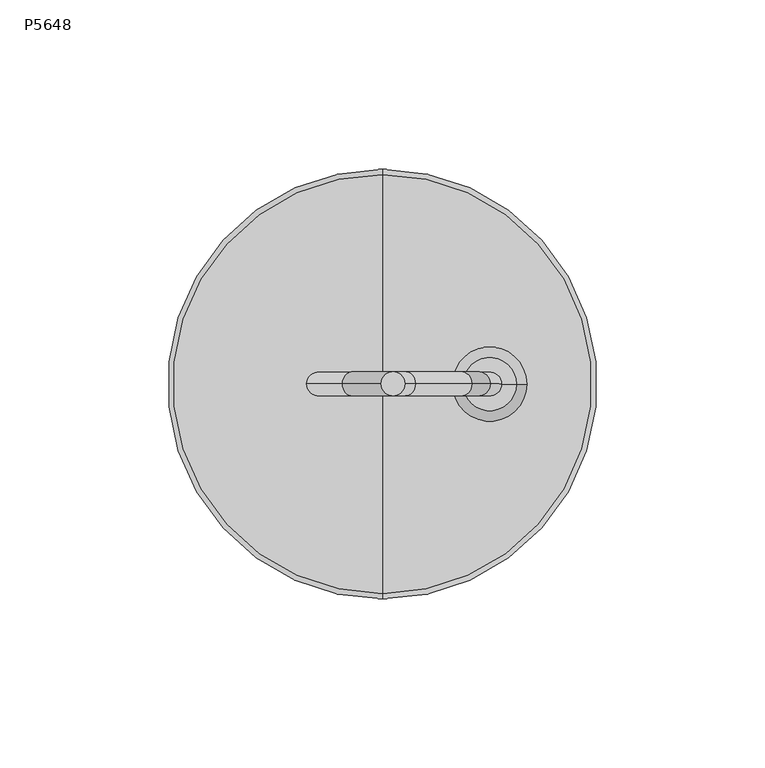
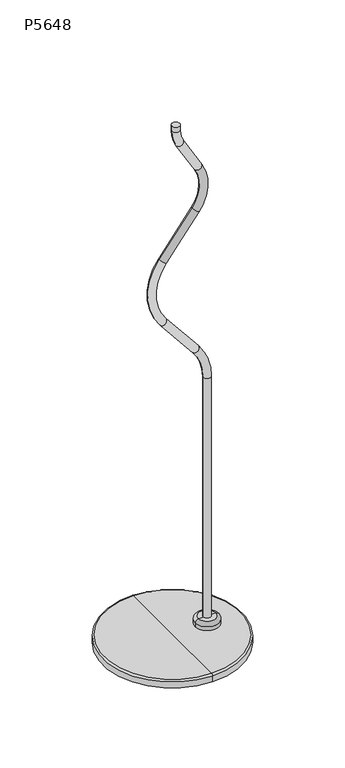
"""IFC4 building model written with IfcOpenShell, lengths in millimetres: light fixture geometry, Impact_Arch_Ltg-waf.r.3 : P5648."""

import ifcopenshell
import ifcopenshell.guid

model = None  # the IFC model being written
_history = None  # IfcOwnerHistory: only IFC2X3 demands one
_inside = {}  # id of a spatial element -> (the spatial element, [elements in it])
_under = {}  # id of a project, library or spatial element -> (it, [spatial elements below it])
_declared = {}  # id of a project -> (the project, [libraries it declares])
_typed = {}  # id of a type object -> (the type object, [elements of that type])
_made_of = {}  # id of a material, layer set ... -> (it, [elements and type objects made of it])


def new_model(schema):
    """Start an empty IFC model of exactly this schema.

    Asked for "IFC4X3", IfcOpenShell would pick the latest addendum, in which some entities
    have other attributes; the version numbers below select the first issue.
    IFC2X3 requires an IfcOwnerHistory on every rooted entity: one is made here for all.
    """
    global model, _history
    if schema == "IFC4X3":
        model = ifcopenshell.file(schema_version=(4, 3, 0, 0))
    else:
        model = ifcopenshell.file(schema=schema)
    _inside.clear()
    _under.clear()
    _declared.clear()
    _typed.clear()
    _made_of.clear()
    _history = None
    if model.schema == "IFC2X3":
        org = make("IfcOrganization", Name="unknown")
        user = make(
            "IfcPersonAndOrganization",
            ThePerson=make("IfcPerson", FamilyName="unknown"),
            TheOrganization=org,
        )
        app = make(
            "IfcApplication",
            ApplicationDeveloper=org,
            Version="unknown",
            ApplicationFullName="unknown",
            ApplicationIdentifier="unknown",
        )
        _history = make(
            "IfcOwnerHistory",
            OwningUser=user,
            OwningApplication=app,
            ChangeAction="ADDED",
            CreationDate=0,
        )
    return model


def make(cls, **values):
    """One entity of the class cls with the attributes given. An attribute that is None is left unset."""
    return model.create_entity(
        cls, **{name: value for name, value in values.items() if value is not None}
    )


def rooted(cls, **values):
    """An entity with a GlobalId (a new one), such as an element, a storey or a relation."""
    return make(cls, GlobalId=ifcopenshell.guid.new(), OwnerHistory=_history, **values)


def si_unit(unit_type, name, prefix=None):
    """IfcSIUnit, for example si_unit("LENGTHUNIT", "METRE", prefix="MILLI")."""
    return make("IfcSIUnit", UnitType=unit_type, Prefix=prefix, Name=name)


def assignment(units):
    """IfcUnitAssignment: the units of a project."""
    return None if units is None else make("IfcUnitAssignment", Units=units)


def point(xyz):
    """IfcCartesianPoint."""
    return None if xyz is None else make("IfcCartesianPoint", Coordinates=xyz)


def direction(xyz):
    """IfcDirection."""
    return None if xyz is None else make("IfcDirection", DirectionRatios=xyz)


def frame(location, z_axis=None, x_axis=None):
    """IfcAxis2Placement3D, a coordinate frame: its origin and axes. An axis left out is left unset."""
    return make(
        "IfcAxis2Placement3D",
        Location=point(location),
        Axis=direction(z_axis),
        RefDirection=direction(x_axis),
    )


def origin():
    """The frame at (0, 0, 0) with its axes left unset."""
    return frame((0.0, 0.0, 0.0))


def place(relative_to, where):
    """IfcLocalPlacement: puts the frame where relative to a parent placement (None: the world)."""
    return make(
        "IfcLocalPlacement", PlacementRelTo=relative_to, RelativePlacement=where
    )


def context(
    kind, dimensions, precision=None, world=None, true_north=None, identifier=None
):
    """IfcGeometricRepresentationContext, for example the 3D "Model" context."""
    return make(
        "IfcGeometricRepresentationContext",
        ContextIdentifier=identifier,
        ContextType=kind,
        CoordinateSpaceDimension=dimensions,
        Precision=precision,
        WorldCoordinateSystem=world,
        TrueNorth=true_north,
    )


def project(units=None, contexts=None):
    """IfcProject with its units and contexts."""
    return rooted(
        "IfcProject",
        Name="project",
        RepresentationContexts=contexts,
        UnitsInContext=assignment(units),
    )


def spatial(cls, under=None, at=None, **own):
    """A site, building, storey or space (cls), placed at a placement, below another one or the project."""
    s = rooted(cls, ObjectPlacement=at, **own)
    if under is not None:
        _under.setdefault(under.id(), (under, []))[1].append(s)
    return s


def circle_curve(where, radius):
    """IfcCircle in the frame where."""
    return make("IfcCircle", Position=where, Radius=radius)


def ellipse_curve(where, semi_axis1, semi_axis2):
    """IfcEllipse in the frame where."""
    return make(
        "IfcEllipse", Position=where, SemiAxis1=semi_axis1, SemiAxis2=semi_axis2
    )


def trimmed(basis, trim1, trim2, sense, master):
    """IfcTrimmedCurve: the piece of a basis curve between two trims."""
    return make(
        "IfcTrimmedCurve",
        BasisCurve=basis,
        Trim1=trim1,
        Trim2=trim2,
        SenseAgreement=sense,
        MasterRepresentation=master,
    )


def shape(context_of_items, identifier, shape_type, items):
    """IfcShapeRepresentation: the items that make up one representation, for example the "Body"."""
    return make(
        "IfcShapeRepresentation",
        ContextOfItems=context_of_items,
        RepresentationIdentifier=identifier,
        RepresentationType=shape_type,
        Items=items,
    )


def source(mapping_origin, context_of_items, identifier, shape_type, items):
    """IfcRepresentationMap: a shape defined once, which mapped items show again and again."""
    return make(
        "IfcRepresentationMap",
        MappingOrigin=mapping_origin,
        MappedRepresentation=shape(context_of_items, identifier, shape_type, items),
    )


def transform(
    local_origin,
    x_axis=None,
    y_axis=None,
    z_axis=None,
    scale=None,
    scale2=None,
    scale3=None,
    uniform=True,
):
    """IfcCartesianTransformationOperator3D, or its non-uniform kind. x_axis, y_axis, z_axis: its Axis1, 2, 3."""
    if uniform:
        return make(
            "IfcCartesianTransformationOperator3D",
            Axis1=direction(x_axis),
            Axis2=direction(y_axis),
            LocalOrigin=point(local_origin),
            Scale=scale,
            Axis3=direction(z_axis),
        )
    return make(
        "IfcCartesianTransformationOperator3DnonUniform",
        Axis1=direction(x_axis),
        Axis2=direction(y_axis),
        LocalOrigin=point(local_origin),
        Scale=scale,
        Axis3=direction(z_axis),
        Scale2=scale2,
        Scale3=scale3,
    )


def mapped(mapping_source, mapping_target):
    """IfcMappedItem: shows the shape of a source again, moved by a transform."""
    return make(
        "IfcMappedItem", MappingSource=mapping_source, MappingTarget=mapping_target
    )


def made_of(thing, what):
    """Note that an element or type object is made of a material, layer set ...; save() writes the relation."""
    if what is not None:
        _made_of.setdefault(what.id(), (what, []))[1].append(thing)
    return thing


def element(
    cls,
    number,
    at=None,
    inside=None,
    cuts=None,
    type_object=None,
    material=None,
    context=None,
    identifier="Body",
    shape_type=None,
    held_by="IfcProductDefinitionShape",
    body=None,
    shapes=None,
    **own,
):
    """One element of the class cls, such as IfcWall. Its Tag is "e" and its number.

    at: its placement. inside: the storey or other place that contains it. cuts: it is an
    opening in that element (IfcRelVoidsElement). A single representation is given by context,
    identifier, shape_type and body (its items); several are given by shapes. held_by: the class
    of the entity that holds the representations. save() writes the other relations.
    """
    e = rooted(cls, Tag="e%d" % number, ObjectPlacement=at, **own)
    if body is not None:
        shapes = [shape(context, identifier, shape_type, body)]
    if shapes is not None:
        e.Representation = make(held_by, Representations=shapes)
    if inside is not None:
        _inside.setdefault(inside.id(), (inside, []))[1].append(e)
    if cuts is not None:
        rooted(
            "IfcRelVoidsElement", RelatingBuildingElement=cuts, RelatedOpeningElement=e
        )
    if type_object is not None:
        _typed.setdefault(type_object.id(), (type_object, []))[1].append(e)
    return made_of(e, material)


def aggregate(whole, parts):
    """IfcRelAggregates: a whole, such as a stair, and the parts it consists of."""
    return rooted("IfcRelAggregates", RelatingObject=whole, RelatedObjects=parts)


def save(model, path):
    """Write the relations noted so far, then the file.

    IfcRelAggregates (storeys below a building ...), IfcRelContainedInSpatialStructure (elements
    in a storey), IfcRelDefinesByType, IfcRelAssociatesMaterial and IfcRelDeclares: one each for
    every whole, place, type object, material and project.
    """
    for whole, parts in _under.values():
        aggregate(whole, parts)
    for where, things in _inside.values():
        rooted(
            "IfcRelContainedInSpatialStructure",
            RelatedElements=things,
            RelatingStructure=where,
        )
    for kind, things in _typed.values():
        rooted("IfcRelDefinesByType", RelatedObjects=things, RelatingType=kind)
    for what, things in _made_of.values():
        rooted("IfcRelAssociatesMaterial", RelatedObjects=things, RelatingMaterial=what)
    for by, libraries in _declared.values():
        rooted("IfcRelDeclares", RelatingContext=by, RelatedDefinitions=libraries)
    model.write(path)


def plane_surface(at):
    """IfcPlane: the flat surface through the origin of the frame at, square to its z axis."""
    return make("IfcPlane", Position=at)


def cylinder_surface(at, radius):
    """IfcCylindricalSurface: all points at the distance radius from the z axis of the frame at."""
    return make("IfcCylindricalSurface", Position=at, Radius=radius)


def revolved_surface(curve, axis_point, axis_direction):
    """IfcSurfaceOfRevolution: the curve turned about the line through axis_point along axis_direction."""
    return make(
        "IfcSurfaceOfRevolution",
        SweptCurve=make("IfcArbitraryOpenProfileDef", ProfileType="CURVE", Curve=curve),
        AxisPosition=make("IfcAxis1Placement", Location=point(axis_point), Axis=direction(axis_direction)),
    )


def advanced_brep(points, edges, surfaces, faces):
    """IfcAdvancedBrep: a solid bounded by faces that lie on surfaces and meet in shared edges.

    An edge is (start, end): straight between two places in points (the first is 0);
    or (start, end, curve); or (start, end, curve, False) where it runs against its curve.
    A face is (place in surfaces, loops), or (place, loops, False) where it looks against
    its surface's normal. A loop lists edges by number (the first is 1), with a minus sign
    where the edge is run from its end to its start. The first loop is the outer one.
    """
    corners = [point(p) for p in points]
    vertices = [make("IfcVertexPoint", VertexGeometry=c) for c in corners]
    made = []
    for start, end, *more in edges:
        made.append(
            make(
                "IfcEdgeCurve",
                EdgeStart=vertices[start],
                EdgeEnd=vertices[end],
                EdgeGeometry=more[0] if more else make("IfcPolyline", Points=[corners[start], corners[end]]),
                SameSense=more[1] if len(more) > 1 else True,
            )
        )
    hull = []
    for where, loops, *sense in faces:
        bounds = []
        for j, loop in enumerate(loops):
            ring = [make("IfcOrientedEdge", EdgeElement=made[abs(k) - 1], Orientation=k > 0) for k in loop]
            bounds.append(
                make(
                    "IfcFaceOuterBound" if j == 0 else "IfcFaceBound",
                    Bound=make("IfcEdgeLoop", EdgeList=ring),
                    Orientation=True,
                )
            )
        hull.append(make("IfcAdvancedFace", Bounds=bounds, FaceSurface=surfaces[where], SameSense=sense[0] if sense else True))
    return make("IfcAdvancedBrep", Outer=make("IfcClosedShell", CfsFaces=hull))


def p5648_7bcdc195(model_context):
    return source(origin(), model_context, "Body", "AdvancedBrep", [
        advanced_brep(
        [(0.0, 63.5264903, 0.0), (0.0, -63.5264903, 0.0), (0.0, -63.5264903, 5.7785), (0.0, 63.5264903, 5.7785), (0.0, 0.0, 0.0), (0.0, 61.9389903, 7.366), (0.0, -61.9389903, 7.366), (0.0, 0.0, 7.366)],
        [
            (0, 1, circle_curve(frame((0.0, 0.0, 0.0), z_axis=(0.0, 0.0, 1.0), x_axis=(0.0, -1.0, 0.0)), 63.5264903)),
            (1, 2),
            (2, 3, circle_curve(frame((0.0, 0.0, 5.7785), z_axis=(0.0, 0.0, -1.0), x_axis=(0.0, -1.0, 0.0)), 63.5264903)),
            (3, 0),
            (1, 0, circle_curve(frame((0.0, 0.0, 0.0), z_axis=(0.0, 0.0, 1.0), x_axis=(0.0, -1.0, 0.0)), 63.5264903)),
            (3, 2, circle_curve(frame((0.0, 0.0, 5.7785), z_axis=(0.0, 0.0, -1.0), x_axis=(0.0, -1.0, 0.0)), 63.5264903)),
            (4, 1),
            (0, 4),
            (5, 6, circle_curve(frame((0.0, 0.0, 7.366), z_axis=(0.0, 0.0, 1.0), x_axis=(0.0, -1.0, 0.0)), 61.9389903)),
            (6, 7),
            (7, 5),
            (6, 5, circle_curve(frame((0.0, 0.0, 7.366), z_axis=(0.0, 0.0, 1.0), x_axis=(0.0, -1.0, 0.0)), 61.9389903)),
            (2, 6, circle_curve(frame((0.0, -61.9389903, 5.7785), z_axis=(-1.0, 0.0, 0.0), x_axis=(0.0, 1.0, 0.0)), 1.5875)),
            (5, 3, circle_curve(frame((0.0, 61.9389903, 5.7785), z_axis=(-1.0, 0.0, 0.0), x_axis=(0.0, -1.0, 0.0)), 1.5875)),
        ],
        [
            cylinder_surface(frame((0.0, 0.0, -9.7717916), z_axis=(0.0, 0.0, -1.0), x_axis=(0.0, -1.0, 0.0)), 63.5264903),
            plane_surface(frame((0.0, 0.0, 0.0), z_axis=(0.0, 0.0, -1.0), x_axis=(0.0, -1.0, 0.0))),
            plane_surface(frame((0.0, 0.0, 7.366), z_axis=(0.0, 0.0, 1.0), x_axis=(0.0, -1.0, 0.0))),
            revolved_surface(trimmed(ellipse_curve(frame((0.0, -61.9389903, 5.7785), z_axis=(1.0, 0.0, 0.0), x_axis=(0.0, 1.0, 0.0)), 1.5875, 1.5875), [point((0.0, -61.9389903, 7.366))], [point((0.0, -63.5264903, 5.7785))], True, "CARTESIAN"), (0.0, 0.0, -9.7717916), (0.0, 0.0, -1.0)),
        ],
        [
            (0, [[1, 2, 3, 4]]),
            (0, [[5, -4, 6, -2]]),
            (1, [[7, -1, 8]]),
            (1, [[-8, -5, -7]]),
            (2, [[9, 10, 11]]),
            (2, [[12, -11, -10]]),
            (3, [[-3, 13, -9, 14]]),
            (3, [[-6, -14, -12, -13]]),
        ],
    ),
        advanced_brep(
        [(31.75, 0.0, 14.351), (39.6031027, 0.0, 14.351), (23.8968973, 0.0, 14.351), (20.7570545, 0.0, 7.366), (42.7429455, 0.0, 7.366), (31.75, 0.0, 7.366), (20.7570545, 0.0, 11.2111572), (42.7429455, 0.0, 11.2111572)],
        [
            (0, 1),
            (1, 2, circle_curve(frame((31.75, 0.0, 14.351), z_axis=(0.0, 0.0, 1.0), x_axis=(1.0, 0.0, 0.0)), 7.8531027)),
            (2, 0),
            (2, 1, circle_curve(frame((31.75, 0.0, 14.351), z_axis=(0.0, 0.0, 1.0), x_axis=(1.0, 0.0, 0.0)), 7.8531027)),
            (3, 4, circle_curve(frame((31.75, 0.0, 7.366), z_axis=(0.0, 0.0, -1.0), x_axis=(1.0, 0.0, 0.0)), 10.9929455)),
            (4, 5),
            (5, 3),
            (4, 3, circle_curve(frame((31.75, 0.0, 7.366), z_axis=(0.0, 0.0, -1.0), x_axis=(1.0, 0.0, 0.0)), 10.9929455)),
            (6, 7, circle_curve(frame((31.75, 0.0, 11.2111572), z_axis=(0.0, 0.0, -1.0), x_axis=(1.0, 0.0, 0.0)), 10.9929455)),
            (7, 4),
            (3, 6),
            (7, 6, circle_curve(frame((31.75, 0.0, 11.2111572), z_axis=(0.0, 0.0, -1.0), x_axis=(1.0, 0.0, 0.0)), 10.9929455)),
            (1, 7, circle_curve(frame((39.6031027, 0.0, 11.2111572), z_axis=(0.0, 1.0, 0.0), x_axis=(1.0, 0.0, 0.0)), 3.1398428)),
            (6, 2, circle_curve(frame((23.8968973, 0.0, 11.2111572), z_axis=(0.0, 1.0, 0.0), x_axis=(-1.0, 0.0, 0.0)), 3.1398428)),
        ],
        [
            plane_surface(frame((31.75, 0.0, 14.351), z_axis=(0.0, 0.0, 1.0), x_axis=(1.0, 0.0, 0.0))),
            plane_surface(frame((31.75, 0.0, 7.366), z_axis=(0.0, 0.0, -1.0), x_axis=(1.0, 0.0, 0.0))),
            cylinder_surface(frame((31.75, 0.0, 20.1361367), z_axis=(0.0, 0.0, 1.0), x_axis=(1.0, 0.0, 0.0)), 10.9929455),
            revolved_surface(trimmed(ellipse_curve(frame((39.6031027, 0.0, 11.2111572), z_axis=(0.0, -1.0, 0.0), x_axis=(1.0, 0.0, 0.0)), 3.1398428, 3.1398428), [point((42.7429455, 0.0, 11.2111572))], [point((39.6031027, 0.0, 14.351))], True, "CARTESIAN"), (31.75, 0.0, 20.1361367), (0.0, 0.0, 1.0)),
        ],
        [
            (0, [[1, 2, 3]]),
            (0, [[-3, 4, -1]]),
            (1, [[5, 6, 7]]),
            (1, [[8, -7, -6]]),
            (2, [[9, 10, -5, 11]]),
            (2, [[12, -11, -8, -10]]),
            (3, [[-2, 13, -9, 14]]),
            (3, [[-4, -14, -12, -13]]),
        ],
    ),
        advanced_brep(
        [(35.2628496, 0.0, 14.3508541), (28.1759769, 0.0, 14.3508541), (35.2628496, 0.0, 245.9752863), (28.1759769, 0.0, 245.9752863), (18.43433, 0.0, 273.4848487), (23.9418645, 0.0, 277.9447622), (-5.6345189, 0.0, 314.4685539), (-11.1420534, 0.0, 310.0086404), (-11.9661144, 0.0, 373.8301178), (-6.3452627, 0.0, 369.5138937), (23.7390917, 0.0, 408.6915849), (18.1182399, 0.0, 413.007809), (20.4729401, 0.0, 449.5006159), (26.6018809, 0.0, 453.0586841), (9.9112613, 0.0, 481.8090662), (3.7823205, 0.0, 478.2509981), (-0.4093526, 0.0, 493.8202249), (6.6775201, 0.0, 493.8202249), (6.6775201, 0.0, 499.0951686), (-0.4093526, 0.0, 499.0951686)],
        [
            (0, 1, circle_curve(frame((31.7194133, 0.0, 14.3508541), z_axis=(0.0, 0.0, -1.0), x_axis=(-1.0, 0.0, 0.0)), 3.5434363)),
            (1, 0, circle_curve(frame((31.7194133, 0.0, 14.3508541), z_axis=(0.0, 0.0, -1.0), x_axis=(-1.0, 0.0, 0.0)), 3.5434363)),
            (0, 2),
            (2, 3, circle_curve(frame((31.7194133, 0.0, 245.9752863), z_axis=(0.0, 0.0, -1.0), x_axis=(-1.0, 0.0, 0.0)), 3.5434363)),
            (3, 1),
            (3, 2, circle_curve(frame((31.7194133, 0.0, 245.9752863), z_axis=(0.0, 0.0, -1.0), x_axis=(-1.0, 0.0, 0.0)), 3.5434363)),
            (4, 3, circle_curve(frame((-15.5371504, 0.0, 245.9752863), z_axis=(0.0, 1.0, 0.0), x_axis=(1.0, 0.0, 0.0)), 43.7131273)),
            (2, 5, circle_curve(frame((-15.5371504, 0.0, 245.9752863), z_axis=(0.0, -1.0, 0.0), x_axis=(1.0, 0.0, 0.0)), 50.8)),
            (5, 4, circle_curve(frame((21.1880972, 0.0, 275.7148054), z_axis=(0.6293203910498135, 0.0, -0.7771459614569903), x_axis=(-0.7771459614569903, 0.0, -0.6293203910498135)), 3.5434363)),
            (4, 5, circle_curve(frame((21.1880972, 0.0, 275.7148054), z_axis=(0.6293203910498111, 0.0, -0.7771459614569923), x_axis=(-0.7771459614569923, 0.0, -0.6293203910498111)), 3.5434363)),
            (5, 6),
            (6, 7, circle_curve(frame((-8.3882861, 0.0, 312.2385971), z_axis=(0.6293203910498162, 0.0, -0.7771459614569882), x_axis=(-0.7771459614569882, 0.0, -0.6293203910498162)), 3.5434363)),
            (7, 4),
            (7, 6, circle_curve(frame((-8.3882861, 0.0, 312.2385971), z_axis=(0.6293203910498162, 0.0, -0.7771459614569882), x_axis=(-0.7771459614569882, 0.0, -0.6293203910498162)), 3.5434363)),
            (8, 7, circle_curve(frame((28.9096191, 0.0, 342.4418453), z_axis=(0.0, -1.0, 0.0), x_axis=(-0.7771459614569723, 0.0, -0.6293203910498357)), 51.5368727)),
            (6, 9, circle_curve(frame((28.9096191, 0.0, 342.4418453), z_axis=(0.0, 1.0, 0.0), x_axis=(-0.7771459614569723, 0.0, -0.6293203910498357)), 44.45)),
            (9, 8, circle_curve(frame((-9.1556885, 0.0, 371.6720058), z_axis=(-0.6090449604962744, 0.0, -0.7931356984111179), x_axis=(-0.7931356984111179, 0.0, 0.6090449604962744)), 3.5434363)),
            (8, 9, circle_curve(frame((-9.1556885, 0.0, 371.6720058), z_axis=(-0.6090449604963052, 0.0, -0.7931356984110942), x_axis=(-0.7931356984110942, 0.0, 0.6090449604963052)), 3.5434363)),
            (9, 10),
            (10, 11, circle_curve(frame((20.9286658, 0.0, 410.849697), z_axis=(-0.6090449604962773, 0.0, -0.7931356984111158), x_axis=(-0.7931356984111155, 0.0, 0.6090449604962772)), 3.5434363)),
            (11, 8),
            (11, 10, circle_curve(frame((20.9286658, 0.0, 410.849697), z_axis=(-0.6090449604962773, 0.0, -0.7931356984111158), x_axis=(-0.7931356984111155, 0.0, 0.6090449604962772)), 3.5434363)),
            (12, 11, circle_curve(frame((-7.9311686, 0.0, 433.0110204), z_axis=(0.0, 1.0, 0.0), x_axis=(0.7931356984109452, 0.0, -0.6090449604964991)), 32.8435709)),
            (10, 13, circle_curve(frame((-7.9311686, 0.0, 433.0110204), z_axis=(0.0, -1.0, 0.0), x_axis=(0.7931356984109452, 0.0, -0.6090449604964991)), 39.9304436)),
            (13, 12, circle_curve(frame((23.5374105, 0.0, 451.27965), z_axis=(0.5020646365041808, 0.0, -0.8648300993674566), x_axis=(-0.8648300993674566, 0.0, -0.5020646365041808)), 3.5434363)),
            (12, 13, circle_curve(frame((23.5374105, 0.0, 451.27965), z_axis=(0.5020646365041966, 0.0, -0.8648300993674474), x_axis=(-0.8648300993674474, 0.0, -0.5020646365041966)), 3.5434363)),
            (13, 14),
            (14, 15, circle_curve(frame((6.8467909, 0.0, 480.0300322), z_axis=(0.5020646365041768, 0.0, -0.8648300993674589), x_axis=(-0.8648300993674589, 0.0, -0.5020646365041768)), 3.5434363)),
            (15, 12),
            (15, 14, circle_curve(frame((6.8467909, 0.0, 480.0300322), z_axis=(0.5020646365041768, 0.0, -0.8648300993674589), x_axis=(-0.8648300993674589, 0.0, -0.5020646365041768)), 3.5434363)),
            (16, 15, circle_curve(frame((30.6010507, 0.0, 493.8202249), z_axis=(0.0, -1.0, 0.0), x_axis=(-0.8648300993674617, 0.0, -0.502064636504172)), 31.0104033)),
            (14, 17, circle_curve(frame((30.6010507, 0.0, 493.8202249), z_axis=(0.0, 1.0, 0.0), x_axis=(-0.8648300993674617, 0.0, -0.502064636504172)), 23.9235306)),
            (17, 16, circle_curve(frame((3.1340837, 0.0, 493.8202249), z_axis=(0.0, 0.0, -1.0), x_axis=(-1.0, 0.0, 0.0)), 3.5434363)),
            (16, 17, circle_curve(frame((3.1340837, 0.0, 493.8202249), z_axis=(0.0, 0.0, -1.0), x_axis=(-1.0, 0.0, 0.0)), 3.5434363)),
            (18, 19, circle_curve(frame((3.1340837, 0.0, 499.0951686), z_axis=(0.0, 0.0, 1.0), x_axis=(-1.0, 0.0, 0.0)), 3.5434363)),
            (19, 18, circle_curve(frame((3.1340837, 0.0, 499.0951686), z_axis=(0.0, 0.0, 1.0), x_axis=(-1.0, 0.0, 0.0)), 3.5434363)),
            (17, 18),
            (19, 16),
        ],
        [
            plane_surface(frame((35.2628496, 0.0, 14.3508541), z_axis=(0.0, 0.0, -1.0), x_axis=(0.0, -1.0, 0.0))),
            cylinder_surface(frame((31.7194133, 0.0, 14.3508541), z_axis=(0.0, 0.0, -1.0), x_axis=(-1.0, 0.0, 0.0)), 3.5434363),
            revolved_surface(trimmed(ellipse_curve(frame((31.7194133, 0.0, 245.9752863), z_axis=(0.0, 0.0, -1.0), x_axis=(-1.0, 0.0, 0.0)), 3.5434363, 3.5434363), [point((35.2628496, 0.0, 245.9752863))], [point((28.1759769, 0.0, 245.9752863))], True, "CARTESIAN"), (-15.5371504, 0.0, 245.9752863), (0.0, -1.0, 0.0)),
            revolved_surface(trimmed(ellipse_curve(frame((31.7194133, 0.0, 245.9752863), z_axis=(0.0, 0.0, -1.0), x_axis=(-1.0, 0.0, 0.0)), 3.5434363, 3.5434363), [point((28.1759769, 0.0, 245.9752863))], [point((35.2628496, 0.0, 245.9752863))], True, "CARTESIAN"), (-15.5371504, 0.0, 245.9752863), (0.0, -1.0, 0.0)),
            cylinder_surface(frame((21.1880972, 0.0, 275.7148054), z_axis=(0.6293203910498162, 0.0, -0.7771459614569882), x_axis=(-0.7771459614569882, 0.0, -0.6293203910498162)), 3.5434363),
            revolved_surface(trimmed(ellipse_curve(frame((-8.3882861, 0.0, 312.2385971), z_axis=(0.6293203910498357, 0.0, -0.7771459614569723), x_axis=(-0.7771459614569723, 0.0, -0.6293203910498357)), 3.5434363, 3.5434363), [point((-5.6345189, 0.0, 314.4685539))], [point((-11.1420534, 0.0, 310.0086404))], True, "CARTESIAN"), (28.9096191, 0.0, 342.4418453), (0.0, 1.0, 0.0)),
            revolved_surface(trimmed(ellipse_curve(frame((-8.3882861, 0.0, 312.2385971), z_axis=(0.6293203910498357, 0.0, -0.7771459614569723), x_axis=(-0.7771459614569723, 0.0, -0.6293203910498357)), 3.5434363, 3.5434363), [point((-11.1420534, 0.0, 310.0086404))], [point((-5.6345189, 0.0, 314.4685539))], True, "CARTESIAN"), (28.9096191, 0.0, 342.4418453), (0.0, 1.0, 0.0)),
            cylinder_surface(frame((-9.1556885, 0.0, 371.6720058), z_axis=(-0.6090449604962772, 0.0, -0.7931356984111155), x_axis=(-0.7931356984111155, 0.0, 0.6090449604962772)), 3.5434363),
            revolved_surface(trimmed(ellipse_curve(frame((20.9286658, 0.0, 410.849697), z_axis=(-0.6090449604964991, 0.0, -0.7931356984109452), x_axis=(-0.7931356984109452, 0.0, 0.6090449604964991)), 3.5434363, 3.5434363), [point((23.7390917, 0.0, 408.6915849))], [point((18.1182399, 0.0, 413.007809))], True, "CARTESIAN"), (-7.9311686, 0.0, 433.0110204), (0.0, -1.0, 0.0)),
            revolved_surface(trimmed(ellipse_curve(frame((20.9286658, 0.0, 410.849697), z_axis=(-0.6090449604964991, 0.0, -0.7931356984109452), x_axis=(-0.7931356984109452, 0.0, 0.6090449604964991)), 3.5434363, 3.5434363), [point((18.1182399, 0.0, 413.007809))], [point((23.7390917, 0.0, 408.6915849))], True, "CARTESIAN"), (-7.9311686, 0.0, 433.0110204), (0.0, -1.0, 0.0)),
            cylinder_surface(frame((23.5374105, 0.0, 451.27965), z_axis=(0.5020646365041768, 0.0, -0.8648300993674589), x_axis=(-0.8648300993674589, 0.0, -0.5020646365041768)), 3.5434363),
            revolved_surface(trimmed(ellipse_curve(frame((6.8467909, 0.0, 480.0300322), z_axis=(0.502064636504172, 0.0, -0.8648300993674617), x_axis=(-0.8648300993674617, 0.0, -0.502064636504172)), 3.5434363, 3.5434363), [point((9.9112613, 0.0, 481.8090662))], [point((3.7823205, 0.0, 478.2509981))], True, "CARTESIAN"), (30.6010507, 0.0, 493.8202249), (0.0, 1.0, 0.0)),
            revolved_surface(trimmed(ellipse_curve(frame((6.8467909, 0.0, 480.0300322), z_axis=(0.502064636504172, 0.0, -0.8648300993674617), x_axis=(-0.8648300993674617, 0.0, -0.502064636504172)), 3.5434363, 3.5434363), [point((3.7823205, 0.0, 478.2509981))], [point((9.9112613, 0.0, 481.8090662))], True, "CARTESIAN"), (30.6010507, 0.0, 493.8202249), (0.0, 1.0, 0.0)),
            plane_surface(frame((6.6775201, 0.0, 499.0951686), z_axis=(0.0, 0.0, 1.0), x_axis=(0.0, -1.0, 0.0))),
            cylinder_surface(frame((3.1340837, 0.0, 493.8202249), z_axis=(0.0, 0.0, -1.0), x_axis=(-1.0, 0.0, 0.0)), 3.5434363),
        ],
        [
            (0, [[1, 2]]),
            (1, [[-1, 3, 4, 5]]),
            (1, [[-2, -5, 6, -3]]),
            (2, [[7, -4, 8, 9]]),
            (3, [[-8, -6, -7, 10]]),
            (4, [[-9, 11, 12, 13]]),
            (4, [[-10, -13, 14, -11]]),
            (5, [[15, -12, 16, 17]]),
            (6, [[-16, -14, -15, 18]]),
            (7, [[-17, 19, 20, 21]]),
            (7, [[-18, -21, 22, -19]]),
            (8, [[23, -20, 24, 25]]),
            (9, [[-24, -22, -23, 26]]),
            (10, [[-25, 27, 28, 29]]),
            (10, [[-26, -29, 30, -27]]),
            (11, [[31, -28, 32, 33]]),
            (12, [[-32, -30, -31, 34]]),
            (13, [[35, 36]]),
            (14, [[-33, 37, -36, 38]]),
            (14, [[-34, -38, -35, -37]]),
        ],
    ),
    ])


if __name__ == "__main__":
    model = new_model("IFC4")
    model_context = context("Model", 3, world=origin())
    ifc_project = project(units=[si_unit("LENGTHUNIT", "METRE", prefix="MILLI")], contexts=[model_context])
    site = spatial("IfcSite", under=ifc_project)
    building = spatial("IfcBuilding", under=site)
    placement = place(None, origin())
    p5648_shape = p5648_7bcdc195(model_context)
    element("IfcLightFixture", 1, ObjectType="Impact_Arch_Ltg-waf.r.3 : P5648", at=placement, inside=building, context=model_context, shape_type="MappedRepresentation", body=[
        mapped(p5648_shape, transform((0.0, 0.0, 0.0), x_axis=(1.0, 0.0, 0.0), y_axis=(0.0, 1.0, 0.0), z_axis=(0.0, 0.0, 1.0))),
    ])
    save(model, "model.ifc")
